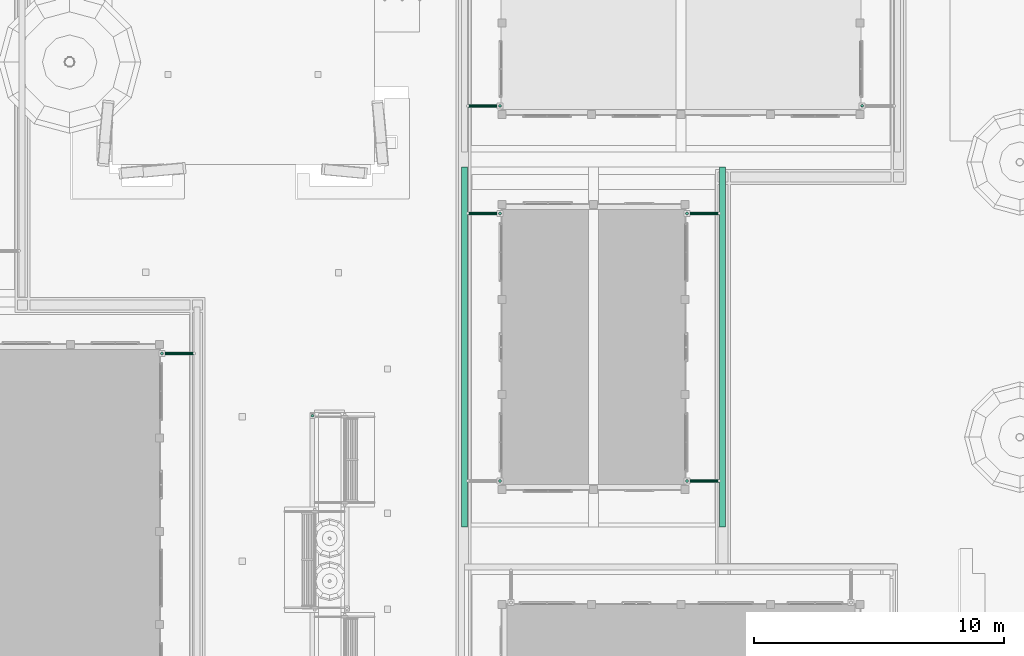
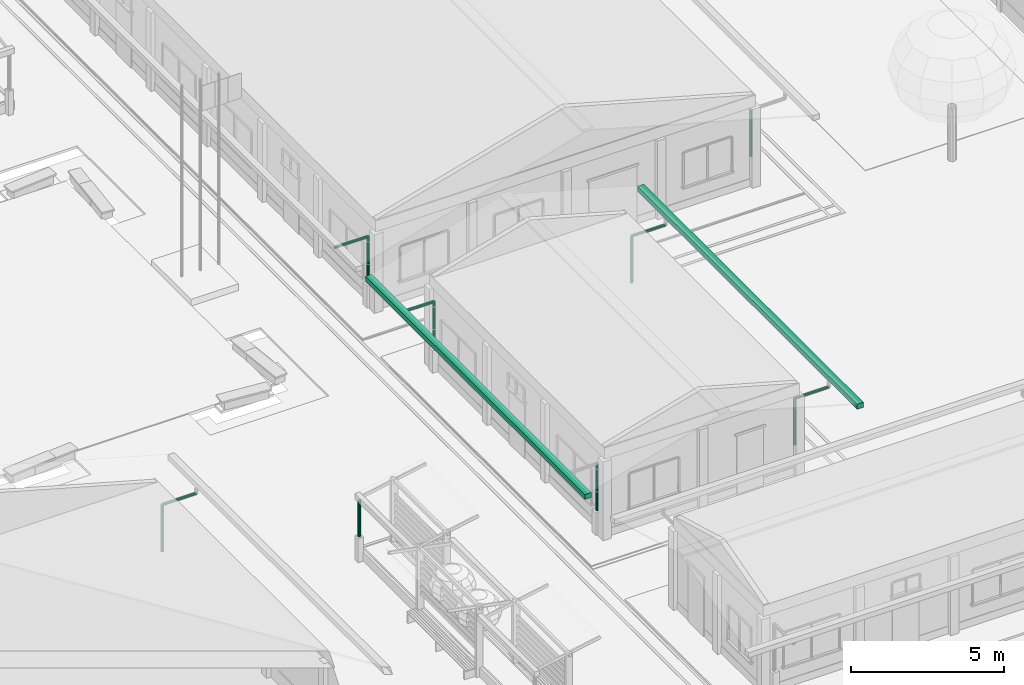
# One storey, part 102 of 177: 15 pipe segments.
"""IFC4 building model written with IfcOpenShell, lengths in metres."""

from ifc_helpers import new_model, si_unit, origin, origin_with_axes, place, context, subcontext, project, spatial, triangles, element, save


model = new_model("IFC4")

# Units and contexts
model_context = context("Model", 3, precision=1e-05, world=origin_with_axes())
body_context = subcontext(model_context, "Body", "Model", "MODEL_VIEW")
ifc_project = project(units=[si_unit("LENGTHUNIT", "METRE"), si_unit("AREAUNIT", "SQUARE_METRE"), si_unit("VOLUMEUNIT", "CUBIC_METRE"), si_unit("PLANEANGLEUNIT", "RADIAN")], contexts=[model_context])

# Site, building, storey
site_placement = place(None, origin_with_axes())
site = spatial("IfcSite", under=ifc_project, at=site_placement, Name="Predio Los Mangos - Morales, San Martín", CompositionType="ELEMENT")
building_placement = place(site_placement, origin())
building = spatial("IfcBuilding", under=site, at=building_placement, Name="Hogar de Refugio Temporal", CompositionType="ELEMENT")
storey_placement = place(building_placement, origin())
storey = spatial("IfcBuildingStorey", under=building, at=storey_placement, Name="NIVEL 1 (NPT +0.00)", CompositionType="ELEMENT", Elevation=0.0)

# Pipe segments
pipe_segment_1_placement = place(storey_placement, origin())
element("IfcPipeSegment", 1, at=pipe_segment_1_placement, inside=storey, Name="E-02_canaleta", ObjectType="Canaleta", PredefinedType="GUTTER", context=body_context, shape_type="Tessellation", body=[
    triangles([(43.68, 41.4, 3.13), (43.92, 41.4, 3.13), (43.92, 55.8, 3.13), (43.68, 55.8, 3.13), (43.68, 41.4, 3.33), (43.92, 41.4, 3.33), (43.92, 55.8, 3.33), (43.68, 55.8, 3.33)], [[1, 4, 3], [1, 3, 2], [5, 6, 7], [5, 7, 8], [1, 2, 6], [1, 6, 5], [2, 3, 7], [2, 7, 6], [3, 4, 8], [3, 8, 7], [4, 1, 5], [4, 5, 8]]),
])
pipe_segment_2_placement = place(storey_placement, origin())
element("IfcPipeSegment", 2, at=pipe_segment_2_placement, inside=storey, Name="E-02_canaleta", ObjectType="Canaleta", PredefinedType="GUTTER", context=body_context, shape_type="Tessellation", body=[
    triangles([(53.98, 41.4, 3.13), (54.22, 41.4, 3.13), (54.22, 55.8, 3.13), (53.98, 55.8, 3.13), (53.98, 41.4, 3.33), (54.22, 41.4, 3.33), (54.22, 55.8, 3.33), (53.98, 55.8, 3.33)], [[1, 4, 3], [1, 3, 2], [5, 6, 7], [5, 7, 8], [1, 2, 6], [1, 6, 5], [2, 3, 7], [2, 7, 6], [3, 4, 8], [3, 8, 7], [4, 1, 5], [4, 5, 8]]),
])
pipe_segment_3_placement = place(storey_placement, origin())
element("IfcPipeSegment", 3, at=pipe_segment_3_placement, inside=storey, Name="montante_desvio", ObjectType="Montante PVC 4\"", PredefinedType="RIGIDSEGMENT", context=body_context, shape_type="Tessellation", body=[
    triangles([(32.98, 48.35, 2.965), (31.69, 48.35, 2.965), (32.98, 48.3225, 2.9576), (31.69, 48.3225, 2.9576), (32.98, 48.3024, 2.9375), (31.69, 48.3024, 2.9375), (32.98, 48.295, 2.91), (31.69, 48.295, 2.91), (32.98, 48.3024, 2.8825), (31.69, 48.3024, 2.8825), (32.98, 48.3225, 2.8624), (31.69, 48.3225, 2.8624), (32.98, 48.35, 2.855), (31.69, 48.35, 2.855), (32.98, 48.3775, 2.8624), (31.69, 48.3775, 2.8624), (32.98, 48.3976, 2.8825), (31.69, 48.3976, 2.8825), (32.98, 48.405, 2.91), (31.69, 48.405, 2.91), (32.98, 48.3976, 2.9375), (31.69, 48.3976, 2.9375), (32.98, 48.3775, 2.9576), (31.69, 48.3775, 2.9576)], [[1, 2, 4], [1, 4, 3], [3, 4, 6], [3, 6, 5], [5, 6, 8], [5, 8, 7], [7, 8, 10], [7, 10, 9], [9, 10, 12], [9, 12, 11], [11, 12, 14], [11, 14, 13], [13, 14, 16], [13, 16, 15], [15, 16, 18], [15, 18, 17], [17, 18, 20], [17, 20, 19], [19, 20, 22], [19, 22, 21], [6, 4, 2], [2, 24, 22], [22, 20, 18], [18, 16, 14], [14, 12, 10], [10, 8, 6], [6, 2, 22], [22, 18, 14], [14, 10, 6], [22, 14, 6], [21, 22, 24], [21, 24, 23], [23, 24, 2], [23, 2, 1], [23, 1, 3], [3, 5, 7], [7, 9, 11], [11, 13, 15], [15, 17, 19], [19, 21, 23], [23, 3, 7], [7, 11, 15], [15, 19, 23], [7, 15, 23]]),
])
pipe_segment_4_placement = place(storey_placement, origin())
element("IfcPipeSegment", 4, at=pipe_segment_4_placement, inside=storey, Name="montante_bajada", ObjectType="Montante PVC 4\"", PredefinedType="RIGIDSEGMENT", context=body_context, shape_type="Tessellation", body=[
    triangles([(31.69, 48.405, 2.91), (31.69, 48.405, 1.05), (31.6625, 48.3976, 2.91), (31.6625, 48.3976, 1.05), (31.6424, 48.3775, 2.91), (31.6424, 48.3775, 1.05), (31.635, 48.35, 2.91), (31.635, 48.35, 1.05), (31.6424, 48.3225, 2.91), (31.6424, 48.3225, 1.05), (31.6625, 48.3024, 2.91), (31.6625, 48.3024, 1.05), (31.69, 48.295, 2.91), (31.69, 48.295, 1.05), (31.7175, 48.3024, 2.91), (31.7175, 48.3024, 1.05), (31.7376, 48.3225, 2.91), (31.7376, 48.3225, 1.05), (31.745, 48.35, 2.91), (31.745, 48.35, 1.05), (31.7376, 48.3775, 2.91), (31.7376, 48.3775, 1.05), (31.7175, 48.3976, 2.91), (31.7175, 48.3976, 1.05)], [[1, 2, 4], [1, 4, 3], [3, 4, 6], [3, 6, 5], [5, 6, 8], [5, 8, 7], [7, 8, 10], [7, 10, 9], [9, 10, 12], [9, 12, 11], [11, 12, 14], [11, 14, 13], [13, 14, 16], [13, 16, 15], [15, 16, 18], [15, 18, 17], [17, 18, 20], [17, 20, 19], [19, 20, 22], [19, 22, 21], [6, 4, 2], [2, 24, 22], [22, 20, 18], [18, 16, 14], [14, 12, 10], [10, 8, 6], [6, 2, 22], [22, 18, 14], [14, 10, 6], [22, 14, 6], [21, 22, 24], [21, 24, 23], [23, 24, 2], [23, 2, 1], [23, 1, 3], [3, 5, 7], [7, 9, 11], [11, 13, 15], [15, 17, 19], [19, 21, 23], [23, 3, 7], [7, 11, 15], [15, 19, 23], [7, 15, 23]]),
])
pipe_segment_5_placement = place(storey_placement, origin())
element("IfcPipeSegment", 5, at=pipe_segment_5_placement, inside=storey, Name="montante_bajada", ObjectType="Montante PVC 4\"", PredefinedType="RIGIDSEGMENT", context=body_context, shape_type="Tessellation", body=[
    triangles([(45.21, 43.305, 2.91), (45.21, 43.305, 1.05), (45.1825, 43.2976, 2.91), (45.1825, 43.2976, 1.05), (45.1624, 43.2775, 2.91), (45.1624, 43.2775, 1.05), (45.155, 43.25, 2.91), (45.155, 43.25, 1.05), (45.1624, 43.2225, 2.91), (45.1624, 43.2225, 1.05), (45.1825, 43.2024, 2.91), (45.1825, 43.2024, 1.05), (45.21, 43.195, 2.91), (45.21, 43.195, 1.05), (45.2375, 43.2024, 2.91), (45.2375, 43.2024, 1.05), (45.2576, 43.2225, 2.91), (45.2576, 43.2225, 1.05), (45.265, 43.25, 2.91), (45.265, 43.25, 1.05), (45.2576, 43.2775, 2.91), (45.2576, 43.2775, 1.05), (45.2375, 43.2976, 2.91), (45.2375, 43.2976, 1.05)], [[1, 2, 4], [1, 4, 3], [3, 4, 6], [3, 6, 5], [5, 6, 8], [5, 8, 7], [7, 8, 10], [7, 10, 9], [9, 10, 12], [9, 12, 11], [11, 12, 14], [11, 14, 13], [13, 14, 16], [13, 16, 15], [15, 16, 18], [15, 18, 17], [17, 18, 20], [17, 20, 19], [19, 20, 22], [19, 22, 21], [6, 4, 2], [2, 24, 22], [22, 20, 18], [18, 16, 14], [14, 12, 10], [10, 8, 6], [6, 2, 22], [22, 18, 14], [14, 10, 6], [22, 14, 6], [21, 22, 24], [21, 24, 23], [23, 24, 2], [23, 2, 1], [23, 1, 3], [3, 5, 7], [7, 9, 11], [11, 13, 15], [15, 17, 19], [19, 21, 23], [23, 3, 7], [7, 11, 15], [15, 19, 23], [7, 15, 23]]),
])
pipe_segment_6_placement = place(storey_placement, origin())
element("IfcPipeSegment", 6, at=pipe_segment_6_placement, inside=storey, Name="montante_desvio", ObjectType="Montante PVC 4\"", PredefinedType="RIGIDSEGMENT", context=body_context, shape_type="Tessellation", body=[
    triangles([(43.92, 53.95, 2.965), (45.21, 53.95, 2.965), (43.92, 53.9775, 2.9576), (45.21, 53.9775, 2.9576), (43.92, 53.9976, 2.9375), (45.21, 53.9976, 2.9375), (43.92, 54.005, 2.91), (45.21, 54.005, 2.91), (43.92, 53.9976, 2.8825), (45.21, 53.9976, 2.8825), (43.92, 53.9775, 2.8624), (45.21, 53.9775, 2.8624), (43.92, 53.95, 2.855), (45.21, 53.95, 2.855), (43.92, 53.9225, 2.8624), (45.21, 53.9225, 2.8624), (43.92, 53.9024, 2.8825), (45.21, 53.9024, 2.8825), (43.92, 53.895, 2.91), (45.21, 53.895, 2.91), (43.92, 53.9024, 2.9375), (45.21, 53.9024, 2.9375), (43.92, 53.9225, 2.9576), (45.21, 53.9225, 2.9576)], [[1, 2, 4], [1, 4, 3], [3, 4, 6], [3, 6, 5], [5, 6, 8], [5, 8, 7], [7, 8, 10], [7, 10, 9], [9, 10, 12], [9, 12, 11], [11, 12, 14], [11, 14, 13], [13, 14, 16], [13, 16, 15], [15, 16, 18], [15, 18, 17], [17, 18, 20], [17, 20, 19], [19, 20, 22], [19, 22, 21], [6, 4, 2], [2, 24, 22], [22, 20, 18], [18, 16, 14], [14, 12, 10], [10, 8, 6], [6, 2, 22], [22, 18, 14], [14, 10, 6], [22, 14, 6], [21, 22, 24], [21, 24, 23], [23, 24, 2], [23, 2, 1], [23, 1, 3], [3, 5, 7], [7, 9, 11], [11, 13, 15], [15, 17, 19], [19, 21, 23], [23, 3, 7], [7, 11, 15], [15, 19, 23], [7, 15, 23]]),
])
pipe_segment_7_placement = place(storey_placement, origin())
element("IfcPipeSegment", 7, at=pipe_segment_7_placement, inside=storey, Name="montante_bajada", ObjectType="Montante PVC 4\"", PredefinedType="RIGIDSEGMENT", context=body_context, shape_type="Tessellation", body=[
    triangles([(45.21, 54.005, 2.91), (45.21, 54.005, 1.05), (45.1825, 53.9976, 2.91), (45.1825, 53.9976, 1.05), (45.1624, 53.9775, 2.91), (45.1624, 53.9775, 1.05), (45.155, 53.95, 2.91), (45.155, 53.95, 1.05), (45.1624, 53.9225, 2.91), (45.1624, 53.9225, 1.05), (45.1825, 53.9024, 2.91), (45.1825, 53.9024, 1.05), (45.21, 53.895, 2.91), (45.21, 53.895, 1.05), (45.2375, 53.9024, 2.91), (45.2375, 53.9024, 1.05), (45.2576, 53.9225, 2.91), (45.2576, 53.9225, 1.05), (45.265, 53.95, 2.91), (45.265, 53.95, 1.05), (45.2576, 53.9775, 2.91), (45.2576, 53.9775, 1.05), (45.2375, 53.9976, 2.91), (45.2375, 53.9976, 1.05)], [[1, 2, 4], [1, 4, 3], [3, 4, 6], [3, 6, 5], [5, 6, 8], [5, 8, 7], [7, 8, 10], [7, 10, 9], [9, 10, 12], [9, 12, 11], [11, 12, 14], [11, 14, 13], [13, 14, 16], [13, 16, 15], [15, 16, 18], [15, 18, 17], [17, 18, 20], [17, 20, 19], [19, 20, 22], [19, 22, 21], [6, 4, 2], [2, 24, 22], [22, 20, 18], [18, 16, 14], [14, 12, 10], [10, 8, 6], [6, 2, 22], [22, 18, 14], [14, 10, 6], [22, 14, 6], [21, 22, 24], [21, 24, 23], [23, 24, 2], [23, 2, 1], [23, 1, 3], [3, 5, 7], [7, 9, 11], [11, 13, 15], [15, 17, 19], [19, 21, 23], [23, 3, 7], [7, 11, 15], [15, 19, 23], [7, 15, 23]]),
])
pipe_segment_8_placement = place(storey_placement, origin())
element("IfcPipeSegment", 8, at=pipe_segment_8_placement, inside=storey, Name="montante_desvio", ObjectType="Montante PVC 4\"", PredefinedType="RIGIDSEGMENT", context=body_context, shape_type="Tessellation", body=[
    triangles([(53.98, 43.25, 2.965), (52.69, 43.25, 2.965), (53.98, 43.2225, 2.9576), (52.69, 43.2225, 2.9576), (53.98, 43.2024, 2.9375), (52.69, 43.2024, 2.9375), (53.98, 43.195, 2.91), (52.69, 43.195, 2.91), (53.98, 43.2024, 2.8825), (52.69, 43.2024, 2.8825), (53.98, 43.2225, 2.8624), (52.69, 43.2225, 2.8624), (53.98, 43.25, 2.855), (52.69, 43.25, 2.855), (53.98, 43.2775, 2.8624), (52.69, 43.2775, 2.8624), (53.98, 43.2976, 2.8825), (52.69, 43.2976, 2.8825), (53.98, 43.305, 2.91), (52.69, 43.305, 2.91), (53.98, 43.2976, 2.9375), (52.69, 43.2976, 2.9375), (53.98, 43.2775, 2.9576), (52.69, 43.2775, 2.9576)], [[1, 2, 4], [1, 4, 3], [3, 4, 6], [3, 6, 5], [5, 6, 8], [5, 8, 7], [7, 8, 10], [7, 10, 9], [9, 10, 12], [9, 12, 11], [11, 12, 14], [11, 14, 13], [13, 14, 16], [13, 16, 15], [15, 16, 18], [15, 18, 17], [17, 18, 20], [17, 20, 19], [19, 20, 22], [19, 22, 21], [6, 4, 2], [2, 24, 22], [22, 20, 18], [18, 16, 14], [14, 12, 10], [10, 8, 6], [6, 2, 22], [22, 18, 14], [14, 10, 6], [22, 14, 6], [21, 22, 24], [21, 24, 23], [23, 24, 2], [23, 2, 1], [23, 1, 3], [3, 5, 7], [7, 9, 11], [11, 13, 15], [15, 17, 19], [19, 21, 23], [23, 3, 7], [7, 11, 15], [15, 19, 23], [7, 15, 23]]),
])
pipe_segment_9_placement = place(storey_placement, origin())
element("IfcPipeSegment", 9, at=pipe_segment_9_placement, inside=storey, Name="montante_bajada", ObjectType="Montante PVC 4\"", PredefinedType="RIGIDSEGMENT", context=body_context, shape_type="Tessellation", body=[
    triangles([(52.69, 43.305, 2.91), (52.69, 43.305, 1.05), (52.6625, 43.2976, 2.91), (52.6625, 43.2976, 1.05), (52.6424, 43.2775, 2.91), (52.6424, 43.2775, 1.05), (52.635, 43.25, 2.91), (52.635, 43.25, 1.05), (52.6424, 43.2225, 2.91), (52.6424, 43.2225, 1.05), (52.6625, 43.2024, 2.91), (52.6625, 43.2024, 1.05), (52.69, 43.195, 2.91), (52.69, 43.195, 1.05), (52.7175, 43.2024, 2.91), (52.7175, 43.2024, 1.05), (52.7376, 43.2225, 2.91), (52.7376, 43.2225, 1.05), (52.745, 43.25, 2.91), (52.745, 43.25, 1.05), (52.7376, 43.2775, 2.91), (52.7376, 43.2775, 1.05), (52.7175, 43.2976, 2.91), (52.7175, 43.2976, 1.05)], [[1, 2, 4], [1, 4, 3], [3, 4, 6], [3, 6, 5], [5, 6, 8], [5, 8, 7], [7, 8, 10], [7, 10, 9], [9, 10, 12], [9, 12, 11], [11, 12, 14], [11, 14, 13], [13, 14, 16], [13, 16, 15], [15, 16, 18], [15, 18, 17], [17, 18, 20], [17, 20, 19], [19, 20, 22], [19, 22, 21], [6, 4, 2], [2, 24, 22], [22, 20, 18], [18, 16, 14], [14, 12, 10], [10, 8, 6], [6, 2, 22], [22, 18, 14], [14, 10, 6], [22, 14, 6], [21, 22, 24], [21, 24, 23], [23, 24, 2], [23, 2, 1], [23, 1, 3], [3, 5, 7], [7, 9, 11], [11, 13, 15], [15, 17, 19], [19, 21, 23], [23, 3, 7], [7, 11, 15], [15, 19, 23], [7, 15, 23]]),
])
pipe_segment_10_placement = place(storey_placement, origin())
element("IfcPipeSegment", 10, at=pipe_segment_10_placement, inside=storey, Name="montante_desvio", ObjectType="Montante PVC 4\"", PredefinedType="RIGIDSEGMENT", context=body_context, shape_type="Tessellation", body=[
    triangles([(53.98, 53.95, 2.965), (52.69, 53.95, 2.965), (53.98, 53.9225, 2.9576), (52.69, 53.9225, 2.9576), (53.98, 53.9024, 2.9375), (52.69, 53.9024, 2.9375), (53.98, 53.895, 2.91), (52.69, 53.895, 2.91), (53.98, 53.9024, 2.8825), (52.69, 53.9024, 2.8825), (53.98, 53.9225, 2.8624), (52.69, 53.9225, 2.8624), (53.98, 53.95, 2.855), (52.69, 53.95, 2.855), (53.98, 53.9775, 2.8624), (52.69, 53.9775, 2.8624), (53.98, 53.9976, 2.8825), (52.69, 53.9976, 2.8825), (53.98, 54.005, 2.91), (52.69, 54.005, 2.91), (53.98, 53.9976, 2.9375), (52.69, 53.9976, 2.9375), (53.98, 53.9775, 2.9576), (52.69, 53.9775, 2.9576)], [[1, 2, 4], [1, 4, 3], [3, 4, 6], [3, 6, 5], [5, 6, 8], [5, 8, 7], [7, 8, 10], [7, 10, 9], [9, 10, 12], [9, 12, 11], [11, 12, 14], [11, 14, 13], [13, 14, 16], [13, 16, 15], [15, 16, 18], [15, 18, 17], [17, 18, 20], [17, 20, 19], [19, 20, 22], [19, 22, 21], [6, 4, 2], [2, 24, 22], [22, 20, 18], [18, 16, 14], [14, 12, 10], [10, 8, 6], [6, 2, 22], [22, 18, 14], [14, 10, 6], [22, 14, 6], [21, 22, 24], [21, 24, 23], [23, 24, 2], [23, 2, 1], [23, 1, 3], [3, 5, 7], [7, 9, 11], [11, 13, 15], [15, 17, 19], [19, 21, 23], [23, 3, 7], [7, 11, 15], [15, 19, 23], [7, 15, 23]]),
])
pipe_segment_11_placement = place(storey_placement, origin())
element("IfcPipeSegment", 11, at=pipe_segment_11_placement, inside=storey, Name="montante_bajada", ObjectType="Montante PVC 4\"", PredefinedType="RIGIDSEGMENT", context=body_context, shape_type="Tessellation", body=[
    triangles([(52.69, 54.005, 2.91), (52.69, 54.005, 1.05), (52.6625, 53.9976, 2.91), (52.6625, 53.9976, 1.05), (52.6424, 53.9775, 2.91), (52.6424, 53.9775, 1.05), (52.635, 53.95, 2.91), (52.635, 53.95, 1.05), (52.6424, 53.9225, 2.91), (52.6424, 53.9225, 1.05), (52.6625, 53.9024, 2.91), (52.6625, 53.9024, 1.05), (52.69, 53.895, 2.91), (52.69, 53.895, 1.05), (52.7175, 53.9024, 2.91), (52.7175, 53.9024, 1.05), (52.7376, 53.9225, 2.91), (52.7376, 53.9225, 1.05), (52.745, 53.95, 2.91), (52.745, 53.95, 1.05), (52.7376, 53.9775, 2.91), (52.7376, 53.9775, 1.05), (52.7175, 53.9976, 2.91), (52.7175, 53.9976, 1.05)], [[1, 2, 4], [1, 4, 3], [3, 4, 6], [3, 6, 5], [5, 6, 8], [5, 8, 7], [7, 8, 10], [7, 10, 9], [9, 10, 12], [9, 12, 11], [11, 12, 14], [11, 14, 13], [13, 14, 16], [13, 16, 15], [15, 16, 18], [15, 18, 17], [17, 18, 20], [17, 20, 19], [19, 20, 22], [19, 22, 21], [6, 4, 2], [2, 24, 22], [22, 20, 18], [18, 16, 14], [14, 12, 10], [10, 8, 6], [6, 2, 22], [22, 18, 14], [14, 10, 6], [22, 14, 6], [21, 22, 24], [21, 24, 23], [23, 24, 2], [23, 2, 1], [23, 1, 3], [3, 5, 7], [7, 9, 11], [11, 13, 15], [15, 17, 19], [19, 21, 23], [23, 3, 7], [7, 11, 15], [15, 19, 23], [7, 15, 23]]),
])
pipe_segment_12_placement = place(storey_placement, origin())
element("IfcPipeSegment", 12, at=pipe_segment_12_placement, inside=storey, Name="montante_desvio", ObjectType="Montante PVC 4\"", PredefinedType="RIGIDSEGMENT", context=body_context, shape_type="Tessellation", body=[
    triangles([(43.92, 58.25, 2.965), (45.21, 58.25, 2.965), (43.92, 58.2775, 2.9576), (45.21, 58.2775, 2.9576), (43.92, 58.2976, 2.9375), (45.21, 58.2976, 2.9375), (43.92, 58.305, 2.91), (45.21, 58.305, 2.91), (43.92, 58.2976, 2.8825), (45.21, 58.2976, 2.8825), (43.92, 58.2775, 2.8624), (45.21, 58.2775, 2.8624), (43.92, 58.25, 2.855), (45.21, 58.25, 2.855), (43.92, 58.2225, 2.8624), (45.21, 58.2225, 2.8624), (43.92, 58.2024, 2.8825), (45.21, 58.2024, 2.8825), (43.92, 58.195, 2.91), (45.21, 58.195, 2.91), (43.92, 58.2024, 2.9375), (45.21, 58.2024, 2.9375), (43.92, 58.2225, 2.9576), (45.21, 58.2225, 2.9576)], [[1, 2, 4], [1, 4, 3], [3, 4, 6], [3, 6, 5], [5, 6, 8], [5, 8, 7], [7, 8, 10], [7, 10, 9], [9, 10, 12], [9, 12, 11], [11, 12, 14], [11, 14, 13], [13, 14, 16], [13, 16, 15], [15, 16, 18], [15, 18, 17], [17, 18, 20], [17, 20, 19], [19, 20, 22], [19, 22, 21], [6, 4, 2], [2, 24, 22], [22, 20, 18], [18, 16, 14], [14, 12, 10], [10, 8, 6], [6, 2, 22], [22, 18, 14], [14, 10, 6], [22, 14, 6], [21, 22, 24], [21, 24, 23], [23, 24, 2], [23, 2, 1], [23, 1, 3], [3, 5, 7], [7, 9, 11], [11, 13, 15], [15, 17, 19], [19, 21, 23], [23, 3, 7], [7, 11, 15], [15, 19, 23], [7, 15, 23]]),
])
pipe_segment_13_placement = place(storey_placement, origin())
element("IfcPipeSegment", 13, at=pipe_segment_13_placement, inside=storey, Name="montante_bajada", ObjectType="Montante PVC 4\"", PredefinedType="RIGIDSEGMENT", context=body_context, shape_type="Tessellation", body=[
    triangles([(45.21, 58.305, 2.91), (45.21, 58.305, 1.05), (45.1825, 58.2976, 2.91), (45.1825, 58.2976, 1.05), (45.1624, 58.2775, 2.91), (45.1624, 58.2775, 1.05), (45.155, 58.25, 2.91), (45.155, 58.25, 1.05), (45.1624, 58.2225, 2.91), (45.1624, 58.2225, 1.05), (45.1825, 58.2024, 2.91), (45.1825, 58.2024, 1.05), (45.21, 58.195, 2.91), (45.21, 58.195, 1.05), (45.2375, 58.2024, 2.91), (45.2375, 58.2024, 1.05), (45.2576, 58.2225, 2.91), (45.2576, 58.2225, 1.05), (45.265, 58.25, 2.91), (45.265, 58.25, 1.05), (45.2576, 58.2775, 2.91), (45.2576, 58.2775, 1.05), (45.2375, 58.2976, 2.91), (45.2375, 58.2976, 1.05)], [[1, 2, 4], [1, 4, 3], [3, 4, 6], [3, 6, 5], [5, 6, 8], [5, 8, 7], [7, 8, 10], [7, 10, 9], [9, 10, 12], [9, 12, 11], [11, 12, 14], [11, 14, 13], [13, 14, 16], [13, 16, 15], [15, 16, 18], [15, 18, 17], [17, 18, 20], [17, 20, 19], [19, 20, 22], [19, 22, 21], [6, 4, 2], [2, 24, 22], [22, 20, 18], [18, 16, 14], [14, 12, 10], [10, 8, 6], [6, 2, 22], [22, 18, 14], [14, 10, 6], [22, 14, 6], [21, 22, 24], [21, 24, 23], [23, 24, 2], [23, 2, 1], [23, 1, 3], [3, 5, 7], [7, 9, 11], [11, 13, 15], [15, 17, 19], [19, 21, 23], [23, 3, 7], [7, 11, 15], [15, 19, 23], [7, 15, 23]]),
])
pipe_segment_14_placement = place(storey_placement, origin())
element("IfcPipeSegment", 14, at=pipe_segment_14_placement, inside=storey, Name="montante_bajada", ObjectType="Montante PVC 4\"", PredefinedType="RIGIDSEGMENT", context=body_context, shape_type="Tessellation", body=[
    triangles([(59.69, 58.305, 2.91), (59.69, 58.305, 1.05), (59.6625, 58.2976, 2.91), (59.6625, 58.2976, 1.05), (59.6424, 58.2775, 2.91), (59.6424, 58.2775, 1.05), (59.635, 58.25, 2.91), (59.635, 58.25, 1.05), (59.6424, 58.2225, 2.91), (59.6424, 58.2225, 1.05), (59.6625, 58.2024, 2.91), (59.6625, 58.2024, 1.05), (59.69, 58.195, 2.91), (59.69, 58.195, 1.05), (59.7175, 58.2024, 2.91), (59.7175, 58.2024, 1.05), (59.7376, 58.2225, 2.91), (59.7376, 58.2225, 1.05), (59.745, 58.25, 2.91), (59.745, 58.25, 1.05), (59.7376, 58.2775, 2.91), (59.7376, 58.2775, 1.05), (59.7175, 58.2976, 2.91), (59.7175, 58.2976, 1.05)], [[1, 2, 4], [1, 4, 3], [3, 4, 6], [3, 6, 5], [5, 6, 8], [5, 8, 7], [7, 8, 10], [7, 10, 9], [9, 10, 12], [9, 12, 11], [11, 12, 14], [11, 14, 13], [13, 14, 16], [13, 16, 15], [15, 16, 18], [15, 18, 17], [17, 18, 20], [17, 20, 19], [19, 20, 22], [19, 22, 21], [6, 4, 2], [2, 24, 22], [22, 20, 18], [18, 16, 14], [14, 12, 10], [10, 8, 6], [6, 2, 22], [22, 18, 14], [14, 10, 6], [22, 14, 6], [21, 22, 24], [21, 24, 23], [23, 24, 2], [23, 2, 1], [23, 1, 3], [3, 5, 7], [7, 9, 11], [11, 13, 15], [15, 17, 19], [19, 21, 23], [23, 3, 7], [7, 11, 15], [15, 19, 23], [7, 15, 23]]),
])
pipe_segment_15_placement = place(storey_placement, origin())
element("IfcPipeSegment", 15, at=pipe_segment_15_placement, inside=storey, Name="oc01_bajada", ObjectType="Montante PVC 4\"", PredefinedType="RIGIDSEGMENT", context=body_context, shape_type="Tessellation", body=[
    triangles([(37.71, 45.91, 2.49), (37.71, 45.91, 1.05), (37.6825, 45.9026, 2.49), (37.6825, 45.9026, 1.05), (37.6624, 45.8825, 2.49), (37.6624, 45.8825, 1.05), (37.655, 45.855, 2.49), (37.655, 45.855, 1.05), (37.6624, 45.8275, 2.49), (37.6624, 45.8275, 1.05), (37.6825, 45.8074, 2.49), (37.6825, 45.8074, 1.05), (37.71, 45.8, 2.49), (37.71, 45.8, 1.05), (37.7375, 45.8074, 2.49), (37.7375, 45.8074, 1.05), (37.7576, 45.8275, 2.49), (37.7576, 45.8275, 1.05), (37.765, 45.855, 2.49), (37.765, 45.855, 1.05), (37.7576, 45.8825, 2.49), (37.7576, 45.8825, 1.05), (37.7375, 45.9026, 2.49), (37.7375, 45.9026, 1.05)], [[1, 2, 4], [1, 4, 3], [3, 4, 6], [3, 6, 5], [5, 6, 8], [5, 8, 7], [7, 8, 10], [7, 10, 9], [9, 10, 12], [9, 12, 11], [11, 12, 14], [11, 14, 13], [13, 14, 16], [13, 16, 15], [15, 16, 18], [15, 18, 17], [17, 18, 20], [17, 20, 19], [19, 20, 22], [19, 22, 21], [6, 4, 2], [2, 24, 22], [22, 20, 18], [18, 16, 14], [14, 12, 10], [10, 8, 6], [6, 2, 22], [22, 18, 14], [14, 10, 6], [22, 14, 6], [21, 22, 24], [21, 24, 23], [23, 24, 2], [23, 2, 1], [23, 1, 3], [3, 5, 7], [7, 9, 11], [11, 13, 15], [15, 17, 19], [19, 21, 23], [23, 3, 7], [7, 11, 15], [15, 19, 23], [7, 15, 23]]),
])

save(model, "model.ifc")
